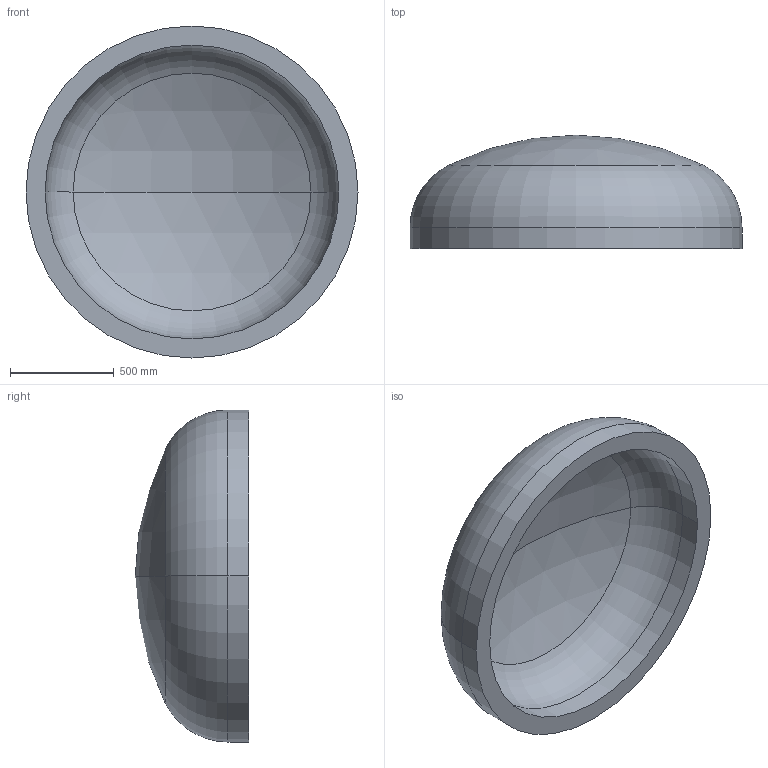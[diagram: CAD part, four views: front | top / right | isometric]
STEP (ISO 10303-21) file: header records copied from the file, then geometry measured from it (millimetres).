
FILE_DESCRIPTION (( 'STEP AP203' ), '1' );
FILE_NAME ('DIN 28013 Korbbogenform_-_Boden DIN 28013 - 1600 x 100 - I - s=92.step', '2016-07-01T11:28:12', ( '' ), ( '' ), 'SwSTEP 2.0', 'SolidWorks 2013', '' );
FILE_SCHEMA (( 'CONFIG_CONTROL_DESIGN' ));
Length unit declared in the file: millimetre
Products named in the file (1): DIN 28013 Korbbogenform_-_Boden DIN 28013 - 1600 x 100 - I - s=92
Bounding box: 1600 x 546.33 x 1600 mm (x, y, z)
Volume: 281356103.8 mm3; surface area: 6570014.5 mm2
Topology: 1 solids, 1 shells, 13 faces, 24 edges, 14 vertices
Faces by surface type: torus 4, cylinder 4, sphere 4, plane 1
Entity records: 407 total; most frequent: DIRECTION 72, CARTESIAN_POINT 52, ORIENTED_EDGE 48, AXIS2_PLACEMENT_3D 34, EDGE_CURVE 24, CIRCLE 20, EDGE_LOOP 14, VERTEX_POINT 14
